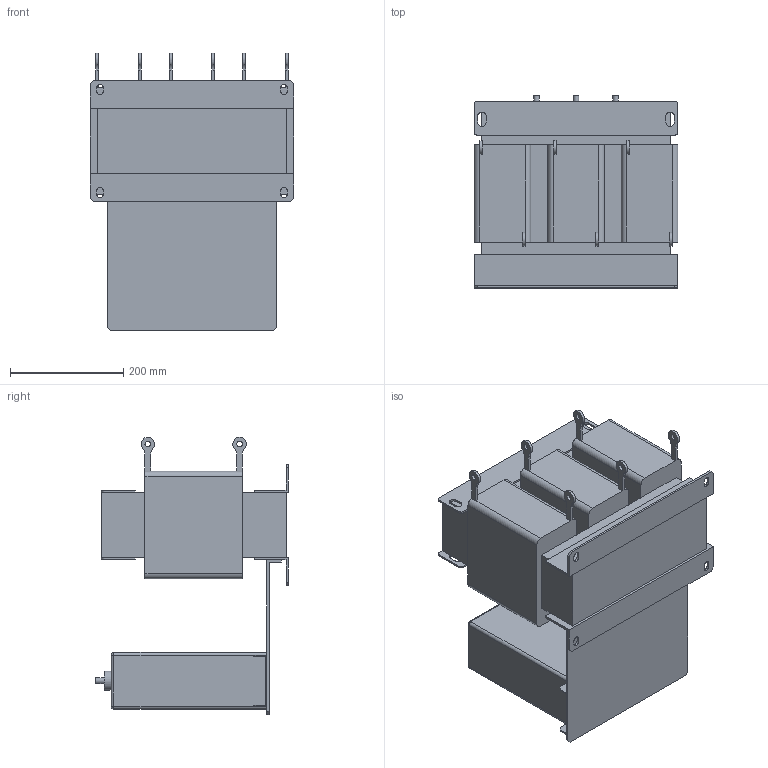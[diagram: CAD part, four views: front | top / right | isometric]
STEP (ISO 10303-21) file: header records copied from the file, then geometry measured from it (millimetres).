
FILE_DESCRIPTION(/* description */ (''),/* implementation_level */ '2;1');
FILE_NAME(/* name */ 'Sin-T6-130.stp',/* time_stamp */ '2025-03-05T16:59:44+04:00',/* author */ ('Лео'),/* organization */ (''),/* preprocessor_version */ 'ST-DEVELOPER v19.2',/* originating_system */ 'Autodesk Inventor 2024',/* authorisation */ '');
FILE_SCHEMA (('AUTOMOTIVE_DESIGN { 1 0 10303 214 3 1 1 }'));
Length unit declared in the file: millimetre
Products named in the file (1): Sin-T6-130_New
Bounding box: 360 x 340 x 489.96 mm (x, y, z)
Volume: 23273662 mm3; surface area: 1400886.6 mm2
Topology: 19 solids, 19 shells, 234 faces, 570 edges, 375 vertices
Faces by surface type: plane 152, cylinder 78, sphere 4
Full cylindrical faces by diameter (mm): 10 x9, 34 x3
Entity records: 6946 total; most frequent: DIRECTION 1196, CARTESIAN_POINT 1180, ORIENTED_EDGE 1140, EDGE_CURVE 570, LINE 414, VECTOR 414, AXIS2_PLACEMENT_3D 391, VERTEX_POINT 374
